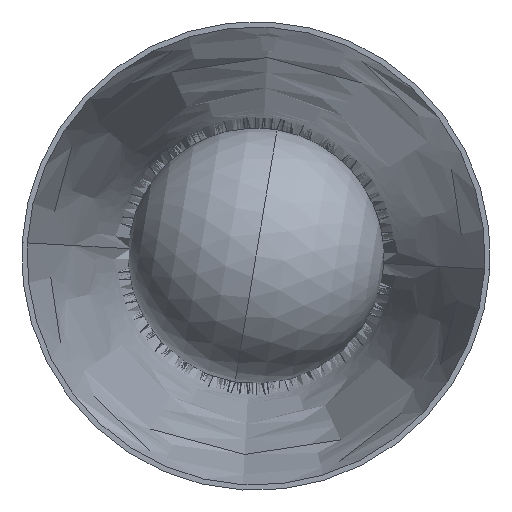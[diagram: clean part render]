
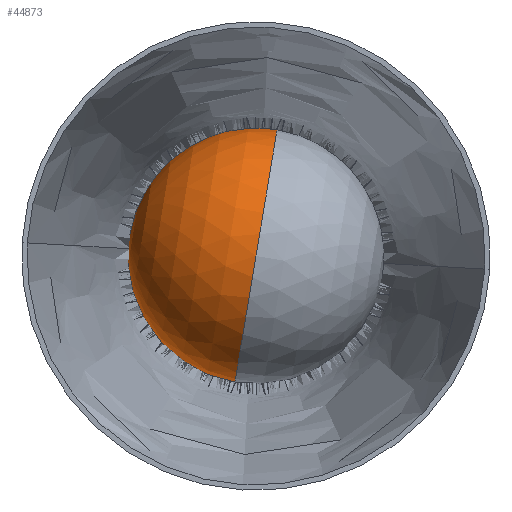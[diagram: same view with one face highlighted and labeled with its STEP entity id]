
A CAD part, front view. The second image highlights one B-rep face of the part: STEP entity #44873.
In plain terms, the highlighted spherical face has radius 97.5 mm.
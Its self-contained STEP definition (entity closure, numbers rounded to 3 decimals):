
#114 = DIRECTION ( 'NONE',  ( -0.165, 0., -0.986 ) ) ;
#2267 = VERTEX_POINT ( 'NONE', #50824 ) ;
#3958 = CARTESIAN_POINT ( 'NONE',  ( -114.2, 46.681, 27.24 ) ) ;
#6371 = FACE_OUTER_BOUND ( 'NONE', #6531, .T. ) ;
#6531 = EDGE_LOOP ( 'NONE', ( #15511, #35759, #43788 ) ) ;
#11516 = DIRECTION ( 'NONE',  ( 0.986, 0., -0.165 ) ) ;
#13198 = CARTESIAN_POINT ( 'NONE',  ( -114.2, -138.568, 27.24 ) ) ;
#13955 = CARTESIAN_POINT ( 'NONE',  ( -114.2, -41.068, 27.24 ) ) ;
#15511 = ORIENTED_EDGE ( 'NONE', *, *, #43566, .F. ) ;
#26095 = DIRECTION ( 'NONE',  ( 0.165, 0., 0.986 ) ) ;
#26577 = CARTESIAN_POINT ( 'NONE',  ( -114.2, -41.068, 27.24 ) ) ;
#35759 = ORIENTED_EDGE ( 'NONE', *, *, #48004, .T. ) ;
#38001 = CARTESIAN_POINT ( 'NONE',  ( -121.195, 46.681, -14.681 ) ) ;
#39639 = CIRCLE ( 'NONE', #43331, 42.5 ) ;
#40718 = AXIS2_PLACEMENT_3D ( 'NONE', #26577, #63193, #72803 ) ;
#41927 = CIRCLE ( 'NONE', #40718, 97.5 ) ;
#42665 = CIRCLE ( 'NONE', #52311, 97.5 ) ;
#43331 = AXIS2_PLACEMENT_3D ( 'NONE', #3958, #52787, #47076 ) ;
#43566 = EDGE_CURVE ( 'NONE', #51539, #59353, #42665, .T. ) ;
#43788 = ORIENTED_EDGE ( 'NONE', *, *, #63582, .F. ) ;
#44873 = ADVANCED_FACE ( 'NONE', ( #6371 ), #66313, .T. ) ;
#47076 = DIRECTION ( 'NONE',  ( 0.165, 0., 0.986 ) ) ;
#48004 = EDGE_CURVE ( 'NONE', #51539, #2267, #41927, .T. ) ;
#50824 = CARTESIAN_POINT ( 'NONE',  ( -107.206, 46.681, 69.16 ) ) ;
#51539 = VERTEX_POINT ( 'NONE', #13198 ) ;
#52311 = AXIS2_PLACEMENT_3D ( 'NONE', #57387, #11516, #114 ) ;
#52787 = DIRECTION ( 'NONE',  ( 0., 1., 0. ) ) ;
#54074 = DIRECTION ( 'NONE',  ( 0.986, 0., -0.165 ) ) ;
#57387 = CARTESIAN_POINT ( 'NONE',  ( -114.2, -41.068, 27.24 ) ) ;
#59353 = VERTEX_POINT ( 'NONE', #38001 ) ;
#63193 = DIRECTION ( 'NONE',  ( -0.986, 0., 0.165 ) ) ;
#63582 = EDGE_CURVE ( 'NONE', #59353, #2267, #39639, .T. ) ;
#66313 = SPHERICAL_SURFACE ( 'NONE', #74243, 97.5 ) ;
#72803 = DIRECTION ( 'NONE',  ( 0.165, 0., 0.986 ) ) ;
#74243 = AXIS2_PLACEMENT_3D ( 'NONE', #13955, #54074, #26095 ) ;
